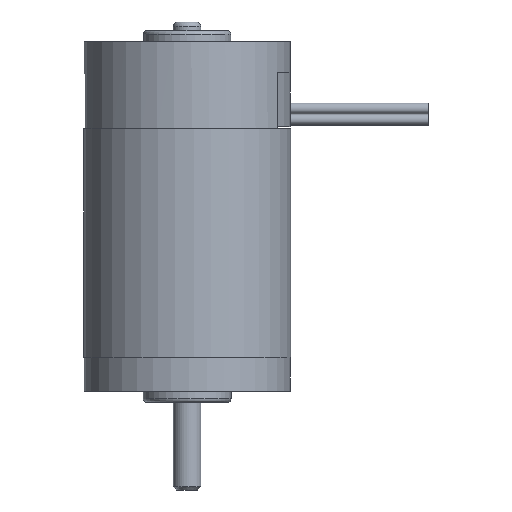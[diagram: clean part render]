
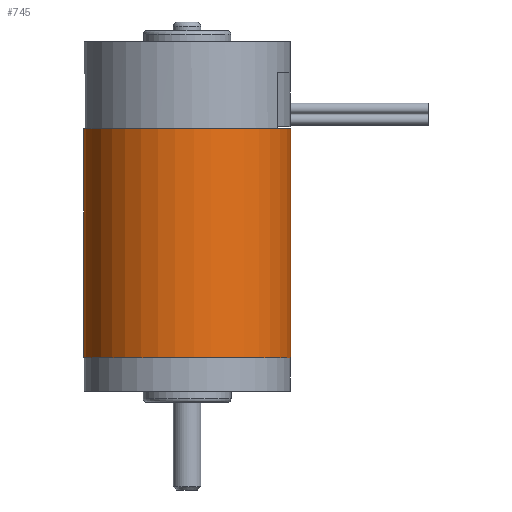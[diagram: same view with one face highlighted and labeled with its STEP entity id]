
A CAD part, front view. The second image highlights one B-rep face of the part: STEP entity #745.
In plain terms, the highlighted cylindrical face has radius 15 mm (diameter 30 mm), a full revolution.
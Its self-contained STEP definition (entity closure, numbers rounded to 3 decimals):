
#718=CARTESIAN_POINT('',(0.0,0.0,0.0));
#719=DIRECTION('',(0.0,0.0,1.0));
#720=DIRECTION('',(-1.0,0.0,0.0));
#721=AXIS2_PLACEMENT_3D('',#718,#719,#720);
#722=CYLINDRICAL_SURFACE('',#721,15.0);
#723=CARTESIAN_POINT('',(15.0,0.,33.1));
#724=VERTEX_POINT('',#723);
#725=CARTESIAN_POINT('',(0.0,0.0,33.1));
#726=DIRECTION('',(0.0,0.0,-1.0));
#727=DIRECTION('',(-1.0,0.0,0.0));
#728=AXIS2_PLACEMENT_3D('',#725,#726,#727);
#729=CIRCLE('',#728,15.0);
#730=EDGE_CURVE('',#724,#724,#729,.T.);
#731=ORIENTED_EDGE('',*,*,#730,.T.);
#732=EDGE_LOOP('',(#731));
#733=FACE_OUTER_BOUND('',#732,.T.);
#734=CARTESIAN_POINT('',(15.0,0.,0.0));
#735=VERTEX_POINT('',#734);
#736=CARTESIAN_POINT('',(0.0,0.0,0.0));
#737=DIRECTION('',(0.0,0.0,-1.0));
#738=DIRECTION('',(-1.0,0.0,0.0));
#739=AXIS2_PLACEMENT_3D('',#736,#737,#738);
#740=CIRCLE('',#739,15.0);
#741=EDGE_CURVE('',#735,#735,#740,.T.);
#742=ORIENTED_EDGE('',*,*,#741,.F.);
#743=EDGE_LOOP('',(#742));
#744=FACE_BOUND('',#743,.T.);
#745=ADVANCED_FACE('',(#733,#744),#722,.T.);
